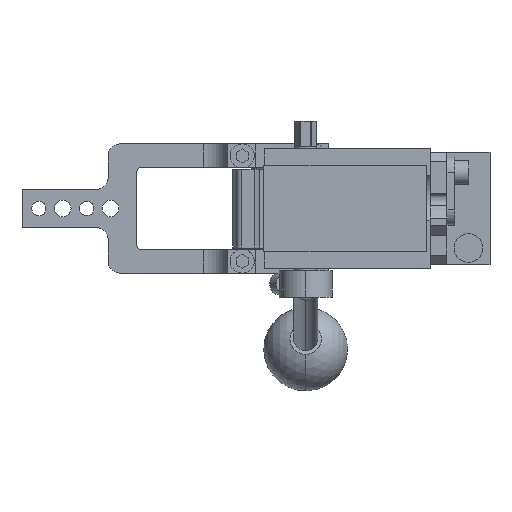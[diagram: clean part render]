
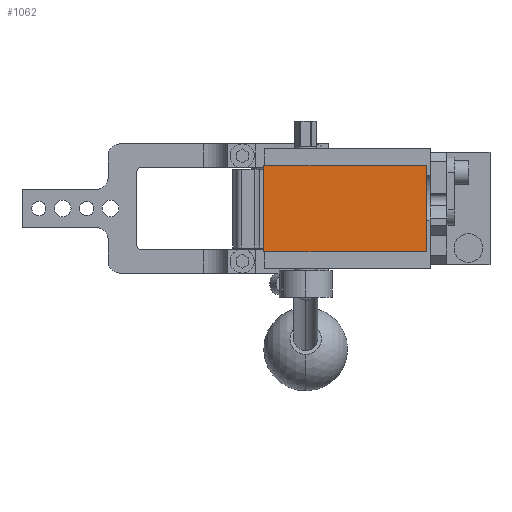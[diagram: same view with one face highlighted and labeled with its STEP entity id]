
A CAD part, front view. The second image highlights one B-rep face of the part: STEP entity #1062.
In plain terms, the highlighted planar face has unit normal (0, -1, 0).
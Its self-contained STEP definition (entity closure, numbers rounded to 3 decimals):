
#559 = VERTEX_POINT ( 'NONE', #4470 ) ;
#564 = EDGE_CURVE ( 'NONE', #8646, #5052, #11022, .T. ) ;
#630 = DIRECTION ( 'NONE',  ( 0., -1., 0. ) ) ;
#1062 = ADVANCED_FACE ( 'NONE', ( #13725 ), #10036, .T. ) ;
#1568 = VERTEX_POINT ( 'NONE', #16384 ) ;
#1596 = AXIS2_PLACEMENT_3D ( 'NONE', #15287, #630, #8756 ) ;
#2237 = VECTOR ( 'NONE', #7635, 1000. ) ;
#2357 = CARTESIAN_POINT ( 'NONE',  ( 62., -233., 18. ) ) ;
#2799 = CARTESIAN_POINT ( 'NONE',  ( -6., -233., -18. ) ) ;
#2970 = EDGE_CURVE ( 'NONE', #559, #8646, #11350, .T. ) ;
#3912 = DIRECTION ( 'NONE',  ( 0., 0., -1. ) ) ;
#4470 = CARTESIAN_POINT ( 'NONE',  ( -6., -233., 18. ) ) ;
#5052 = VERTEX_POINT ( 'NONE', #5966 ) ;
#5711 = ORIENTED_EDGE ( 'NONE', *, *, #2970, .T. ) ;
#5966 = CARTESIAN_POINT ( 'NONE',  ( 62., -233., -18. ) ) ;
#6990 = DIRECTION ( 'NONE',  ( 1., 0., 0. ) ) ;
#7395 = CARTESIAN_POINT ( 'NONE',  ( -6., -233., 18. ) ) ;
#7635 = DIRECTION ( 'NONE',  ( 0., 0., 1. ) ) ;
#7823 = EDGE_CURVE ( 'NONE', #5052, #1568, #15369, .T. ) ;
#8133 = ORIENTED_EDGE ( 'NONE', *, *, #564, .T. ) ;
#8361 = CARTESIAN_POINT ( 'NONE',  ( -6., -233., -18. ) ) ;
#8595 = DIRECTION ( 'NONE',  ( -1., 0., 0. ) ) ;
#8646 = VERTEX_POINT ( 'NONE', #2799 ) ;
#8756 = DIRECTION ( 'NONE',  ( 0., 0., -1. ) ) ;
#9854 = ORIENTED_EDGE ( 'NONE', *, *, #16745, .T. ) ;
#10036 = PLANE ( 'NONE',  #1596 ) ;
#10311 = VECTOR ( 'NONE', #8595, 1000. ) ;
#11022 = LINE ( 'NONE', #8361, #16655 ) ;
#11350 = LINE ( 'NONE', #16739, #12390 ) ;
#12390 = VECTOR ( 'NONE', #3912, 1000. ) ;
#12455 = LINE ( 'NONE', #7395, #10311 ) ;
#12699 = EDGE_LOOP ( 'NONE', ( #5711, #8133, #16253, #9854 ) ) ;
#13725 = FACE_OUTER_BOUND ( 'NONE', #12699, .T. ) ;
#15287 = CARTESIAN_POINT ( 'NONE',  ( 0., -233., 0. ) ) ;
#15369 = LINE ( 'NONE', #2357, #2237 ) ;
#16253 = ORIENTED_EDGE ( 'NONE', *, *, #7823, .T. ) ;
#16384 = CARTESIAN_POINT ( 'NONE',  ( 62., -233., 18. ) ) ;
#16655 = VECTOR ( 'NONE', #6990, 1000. ) ;
#16739 = CARTESIAN_POINT ( 'NONE',  ( -6., -233., 18. ) ) ;
#16745 = EDGE_CURVE ( 'NONE', #1568, #559, #12455, .T. ) ;
